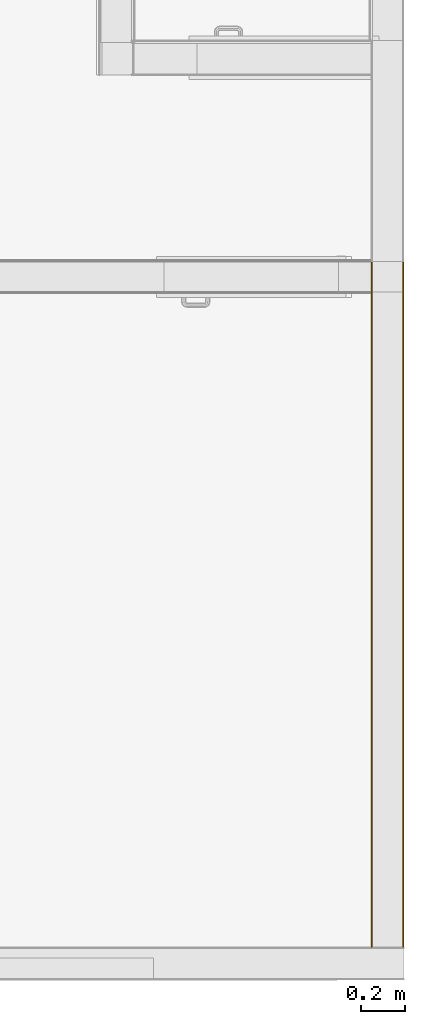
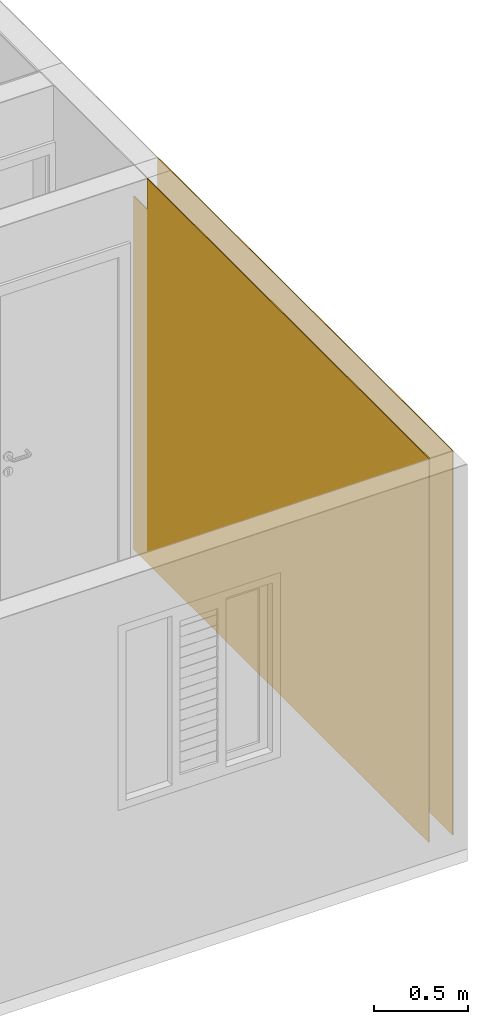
# One storey, part 7 of 7: 2 coverings, 1 element without a shape of its own.
"""IFC2X3 building model written with IfcOpenShell, lengths in millimetres."""

from ifc_helpers import new_model, entity, si_unit, converted_unit, derived_unit, money_unit, direction, frame, origin_with_axes, place, context, subcontext, project, spatial, polyline, outline, extrude, boolean, faceted_brep, material, type_object, element, aggregate, save


model = new_model("IFC2X3")

# Units and contexts
model_context = context("Model", 3, precision=0.01, world=origin_with_axes(), true_north=direction((0.0, 1.0)))
body_context = subcontext(model_context, "Body", "Model", "MODEL_VIEW")
ifc_project = project(units=[si_unit("LENGTHUNIT", "METRE", prefix="MILLI"), si_unit("AREAUNIT", "SQUARE_METRE"), si_unit("VOLUMEUNIT", "CUBIC_METRE"), converted_unit("PLANEANGLEUNIT", "DEGREE", entity("IfcPlaneAngleMeasure", 0.0174532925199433), si_unit("PLANEANGLEUNIT", "RADIAN"), dimensions=[0, 0, 0, 0, 0, 0, 0]), money_unit("USD"), converted_unit("TIMEUNIT", "Year", entity("IfcTimeMeasure", 31557600.0), si_unit("TIMEUNIT", "SECOND"), dimensions=[0, 0, 1, 0, 0, 0, 0]), si_unit("MASSUNIT", "GRAM", prefix="KILO"), si_unit("THERMODYNAMICTEMPERATUREUNIT", "DEGREE_CELSIUS"), si_unit("LUMINOUSINTENSITYUNIT", "LUMEN"), si_unit("ENERGYUNIT", "JOULE", prefix="MEGA"), derived_unit("THERMALCONDUCTANCEUNIT", [(si_unit("POWERUNIT", "WATT"), 1), (si_unit("LENGTHUNIT", "METRE"), -1), (si_unit("THERMODYNAMICTEMPERATUREUNIT", "KELVIN"), -1)]), derived_unit("SPECIFICHEATCAPACITYUNIT", [(si_unit("ENERGYUNIT", "JOULE"), 1), (si_unit("MASSUNIT", "GRAM", prefix="KILO"), -1), (si_unit("THERMODYNAMICTEMPERATUREUNIT", "KELVIN"), -1)]), derived_unit("MASSDENSITYUNIT", [(si_unit("MASSUNIT", "GRAM", prefix="KILO"), 1), (si_unit("VOLUMEUNIT", "CUBIC_METRE"), -1)])], contexts=[model_context])

# Site, building, storey
site_placement = place(None, origin_with_axes())
site = spatial("IfcSite", under=ifc_project, at=site_placement, Name="Local", CompositionType="ELEMENT")
building_placement = place(site_placement, origin_with_axes())
building = spatial("IfcBuilding", under=site, at=building_placement, Name="Construção", CompositionType="ELEMENT")
storey_placement = place(building_placement, origin_with_axes())
storey = spatial("IfcBuildingStorey", under=building, at=storey_placement, Name="Pavimento Térreo", CompositionType="ELEMENT", Elevation=0.0)

# Wall, coverings
wall_type = type_object("IfcWallType", Name="Alvenaria 140, Rebocada 2 Faces 150", PredefinedType="NOTDEFINED")
wall_placement = place(storey_placement, frame((6449.999999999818, 150.0, 0.0), z_axis=(0.0, 0.0, 1.0), x_axis=(0.0, 1.0, 0.0)))
wall = element("IfcWall", 1, at=wall_placement, inside=storey, type_object=wall_type, Name="Parede-03 - Trecho 3")
ifc_material = material(Name="Reboco DEF")
covering_1_placement = place(wall_placement, origin_with_axes())
covering_1 = element("IfcCovering", 2, at=covering_1_placement, material=ifc_material, Name="Reboco DEF", PredefinedType="CLADDING", context=body_context, shape_type="CSG", body=[
    boolean("DIFFERENCE", boolean("DIFFERENCE", extrude(outline(polyline([(0.0, 0.0), (3145.00000000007, 0.0), (3145.00000000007, 4.999999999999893), (0.0, 4.999999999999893), (0.0, 0.0)])), origin_with_axes(), (0.0, 0.0, 1.0), 2500.0), faceted_brep([(3005.000000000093, 4.999999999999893, 2500.0), (3005.000000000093, 4.999999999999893, 2300.0), (3145.00000000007, 4.999999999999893, 2300.0), (3145.00000000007, 4.999999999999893, 2500.0), (3005.000000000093, 144.9999999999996, 2500.0), (3005.000000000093, 144.9999999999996, 2300.0), (3145.00000000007, 144.9999999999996, 2300.0), (3145.00000000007, 145.0000000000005, 2500.0)], [[[0, 1, 2, 3]], [[1, 0, 4, 5]], [[6, 2, 1, 5]], [[2, 6, 7, 3]], [[4, 0, 3, 7]], [[5, 4, 7, 6]]])), faceted_brep([(3005.000000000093, 144.9999999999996, 2500.0), (3005.000000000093, 144.9999999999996, 2300.0), (3145.00000000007, 144.9999999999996, 2300.0), (3145.00000000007, 145.0000000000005, 2500.0), (3005.000000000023, 150.0000000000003, 2500.0), (3005.000000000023, 150.0000000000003, 2300.0), (3145.000000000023, 150.0000000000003, 2300.0), (3145.00000000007, 150.0000000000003, 2500.0)], [[[0, 1, 2, 3]], [[0, 4, 5, 1]], [[6, 2, 1, 5]], [[2, 6, 7, 3]], [[4, 0, 3, 7]], [[5, 4, 7, 6]]])),
])
covering_2_placement = place(wall_placement, origin_with_axes())
covering_2 = element("IfcCovering", 3, at=covering_2_placement, material=ifc_material, Name="Reboco DEF", PredefinedType="CLADDING", context=body_context, shape_type="CSG", body=[
    boolean("DIFFERENCE", boolean("DIFFERENCE", extrude(outline(polyline([(0.0, 145.0000000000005), (3145.00000000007, 145.0000000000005), (3145.00000000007, 150.0000000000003), (0.0, 150.0000000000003), (0.0, 145.0000000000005)])), origin_with_axes(), (0.0, 0.0, 1.0), 2500.0), faceted_brep([(3005.000000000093, 4.999999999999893, 2500.0), (3005.000000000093, 4.999999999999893, 2300.0), (3145.00000000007, 4.999999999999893, 2300.0), (3145.00000000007, 4.999999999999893, 2500.0), (3005.000000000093, 144.9999999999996, 2500.0), (3005.000000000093, 144.9999999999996, 2300.0), (3145.00000000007, 144.9999999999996, 2300.0), (3145.00000000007, 145.0000000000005, 2500.0)], [[[0, 1, 2, 3]], [[1, 0, 4, 5]], [[6, 2, 1, 5]], [[2, 6, 7, 3]], [[4, 0, 3, 7]], [[5, 4, 7, 6]]])), faceted_brep([(3005.000000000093, 144.9999999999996, 2500.0), (3005.000000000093, 144.9999999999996, 2300.0), (3145.00000000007, 144.9999999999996, 2300.0), (3145.00000000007, 145.0000000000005, 2500.0), (3005.000000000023, 150.0000000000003, 2500.0), (3005.000000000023, 150.0000000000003, 2300.0), (3145.000000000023, 150.0000000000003, 2300.0), (3145.00000000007, 150.0000000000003, 2500.0)], [[[0, 1, 2, 3]], [[0, 4, 5, 1]], [[6, 2, 1, 5]], [[2, 6, 7, 3]], [[4, 0, 3, 7]], [[5, 4, 7, 6]]])),
])
aggregate(wall, [covering_1, covering_2])

save(model, "model.ifc")
